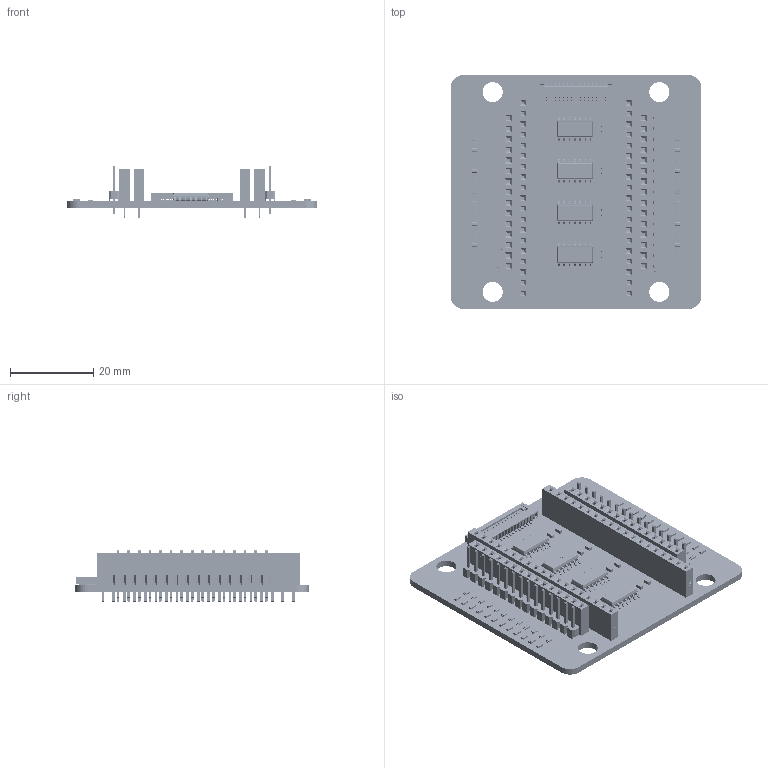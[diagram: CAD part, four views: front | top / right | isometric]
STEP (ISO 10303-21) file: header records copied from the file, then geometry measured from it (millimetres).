
FILE_DESCRIPTION(('Designed by EasyEDA Pro'),'2;1');
FILE_NAME('Open CASCADE Shape Model','2026-09-15T21:09:43',('Author'),( 'Open CASCADE'),'Open CASCADE STEP processor 7.8','Open CASCADE 7.8' ,'Unknown');
FILE_SCHEMA(('AUTOMOTIVE_DESIGN { 1 0 10303 214 1 1 1 1 }'));
Length unit declared in the file: millimetre
Products named in the file (852): EasyEDA PCB Model~7jFO; Board~7jFO; TopCopper~7jFO; BottomCopper~7jFO; TopSilkscreen~7jFO; BottomSilkscreen~7jFO; TopFpcStiffener~7jFO; BottomFpcStiffener~7jFO; C2~C0603~C0603_L1.6-W0.8-H0.8~7jFO; C0603~C0603_L1.6-W0.8-H0.8~7jFO; C3~C0603~C0603_L1.6-W0.8-H0.8~7jFO; C4~C0603~C0603_L1.6-W0.8-H0.8~7jFO; C5~C0603~C0603_L1.6-W0.8-H0.8~7jFO; C6~C0603~C0603_L1.6-W0.8-H0.8~7jFO; C7~C0603~C0603_L1.6-W0.8-H0.8~7jFO; C8~C0603~C0603_L1.6-W0.8-H0.8~7jFO; C1~C0603~C0603_L1.6-W0.8-H0.8~7jFO; R2~R0603~R0603~7jFO; R0603~R0603~7jFO; R3~R0603~R0603~7jFO; R35~R0603~R0603~7jFO; R36~R0603~R0603~7jFO; R38~R0603~R0603~7jFO; R39~R0603~R0603~7jFO; R40~R0603~R0603~7jFO; R41~R0603~R0603~7jFO; R42~R0603~R0603~7jFO; R43~R0603~R0603~7jFO; R44~R0603~R0603~7jFO; R45~R0603~R0603~7jFO; R46~R0603~R0603~7jFO; R47~R0603~R0603~7jFO; R48~R0603~R0603~7jFO; R49~R0603~R0603~7jFO; R50~R0603~R0603~7jFO; R51~R0603~R0603~7jFO; R52~R0603~R0603~7jFO; R53~R0603~R0603~7jFO; R54~R0603~R0603~7jFO; R55~R0603~R0603~7jFO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
Assembly tree (909 placements, depth 3):
  EasyEDA PCB Model~7jFO
    Board~7jFO
    TopCopper~7jFO
    BottomCopper~7jFO
    TopSilkscreen~7jFO
      TopSilkscreen~7jFO
      TopSilkscreen~7jFO
      TopSilkscreen~7jFO
      TopSilkscreen~7jFO
      TopSilkscreen~7jFO
      TopSilkscreen~7jFO
      TopSilkscreen~7jFO
      TopSilkscreen~7jFO
      TopSilkscreen~7jFO
      TopSilkscreen~7jFO
      TopSilkscreen~7jFO
      TopSilkscreen~7jFO
      TopSilkscreen~7jFO
      TopSilkscreen~7jFO
      TopSilkscreen~7jFO
      TopSilkscreen~7jFO
      TopSilkscreen~7jFO
      TopSilkscreen~7jFO
      TopSilkscreen~7jFO
      TopSilkscreen~7jFO
      TopSilkscreen~7jFO
      TopSilkscreen~7jFO
      TopSilkscreen~7jFO
      TopSilkscreen~7jFO
      TopSilkscreen~7jFO
      TopSilkscreen~7jFO
      TopSilkscreen~7jFO
      TopSilkscreen~7jFO
      TopSilkscreen~7jFO
      TopSilkscreen~7jFO
      TopSilkscreen~7jFO
      TopSilkscreen~7jFO
      TopSilkscreen~7jFO
      TopSilkscreen~7jFO
      TopSilkscreen~7jFO
      TopSilkscreen~7jFO
      TopSilkscreen~7jFO
      TopSilkscreen~7jFO
      TopSilkscreen~7jFO
      TopSilkscreen~7jFO
      TopSilkscreen~7jFO
      TopSilkscreen~7jFO
      TopSilkscreen~7jFO
      TopSilkscreen~7jFO
      TopSilkscreen~7jFO
      TopSilkscreen~7jFO
      TopSilkscreen~7jFO
      TopSilkscreen~7jFO
      TopSilkscreen~7jFO
      TopSilkscreen~7jFO
      TopSilkscreen~7jFO
      TopSilkscreen~7jFO
      TopSilkscreen~7jFO
      TopSilkscreen~7jFO
      TopSilkscreen~7jFO
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Bounding box: 60.18 x 56.11 x 12.5 mm (x, y, z)
Volume: 9431.7 mm3; surface area: 16955.6 mm2
Topology: 368 solids, 1160 shells, 27601 faces, 114065 edges, 89432 vertices
Faces by surface type: plane 17335, bspline 7162, cylinder 2038, torus 448, sphere 376, extrusion 146, cone 96
Entity records: 612023 total; most frequent: CARTESIAN_POINT 138099, ORIENTED_EDGE 73298, DIRECTION 71953, EDGE_CURVE 58684, VECTOR 54477, LINE 54331, VERTEX_POINT 53506, AXIS2_PLACEMENT_3D 8738
